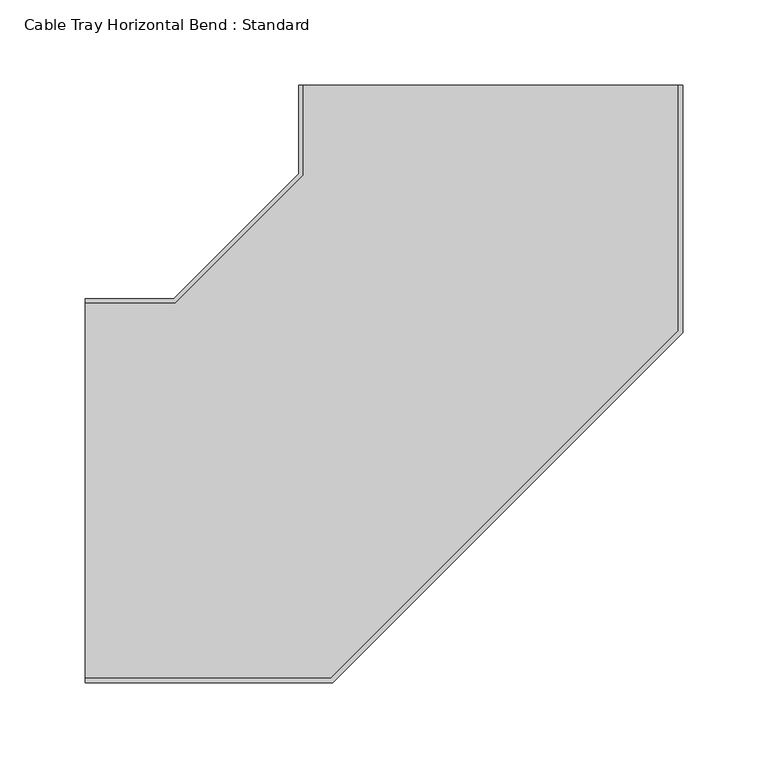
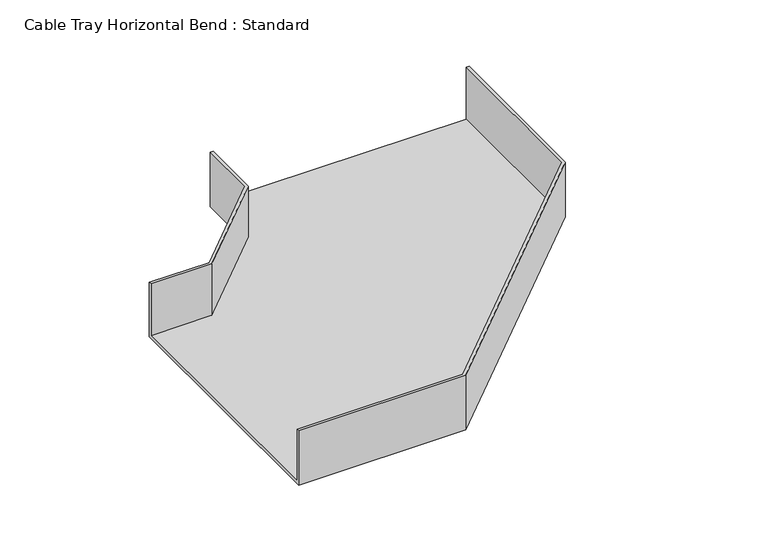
"""IFC4 building model written with IfcOpenShell, lengths in millimetres: cable carrier fitting geometry, Cable Tray Horizontal Bend : Standard."""

from ifc_helpers import new_model, si_unit, origin, place, context, project, spatial, faceted_brep, source, transform, mapped, element, save


def cable_tray_horizontal_bend_standard_fd552271(model_context):
    return source(origin(), model_context, "Body", "Brep", [
        faceted_brep([(-237.5, -112.5, -25.0), (-237.5, -112.5, 25.0), (-237.5, -109.96, 25.0), (-237.5, -109.96, -22.46), (-237.5, 109.96, -22.46), (-237.5, 109.96, 25.0), (-237.5, 112.5, 25.0), (-237.5, 112.5, -25.0), (112.5, 237.5, -25.0), (-112.5, 237.5, -25.0), (-112.5, 237.5, 25.0), (-109.96, 237.5, 25.0), (-109.96, 237.5, -22.46), (109.96, 237.5, -22.46), (109.96, 237.5, 25.0), (112.5, 237.5, 25.0), (-92.5252532, -112.5, -25.0), (-92.5252532, -112.5, 25.0), (112.5, 92.5252532, 25.0), (109.96, 93.5773556, 25.0), (-93.5773556, -109.96, 25.0), (-93.5773556, -109.96, -22.46), (109.96, 93.5773556, -22.46), (-109.96, 184.6712023, -22.46), (-184.6712023, 109.96, -22.46), (-184.6712023, 109.96, 25.0), (-109.96, 184.6712023, 25.0), (-112.5, 185.7233047, 25.0), (-185.7233047, 112.5, 25.0), (-185.7233047, 112.5, -25.0), (-112.5, 185.7233047, -25.0), (112.5, 92.5252532, -25.0)], [[[0, 1, 2, 3, 4, 5, 6, 7]], [[8, 9, 10, 11, 12, 13, 14, 15]], [[1, 0, 16, 17]], [[2, 1, 17, 18, 15, 14, 19, 20]], [[3, 2, 20, 21]], [[4, 3, 21, 22, 13, 12, 23, 24]], [[5, 4, 24, 25]], [[6, 5, 25, 26, 11, 10, 27, 28]], [[7, 6, 28, 29]], [[0, 7, 29, 30, 9, 8, 31, 16]], [[17, 16, 31, 18]], [[21, 20, 19, 22]], [[25, 24, 23, 26]], [[29, 28, 27, 30]], [[18, 31, 8, 15]], [[22, 19, 14, 13]], [[26, 23, 12, 11]], [[30, 27, 10, 9]]]),
    ])


if __name__ == "__main__":
    model = new_model("IFC4")
    model_context = context("Model", 3, world=origin())
    ifc_project = project(units=[si_unit("LENGTHUNIT", "METRE", prefix="MILLI")], contexts=[model_context])
    site = spatial("IfcSite", under=ifc_project)
    building = spatial("IfcBuilding", under=site)
    placement = place(None, origin())
    cable_tray_horizontal_bend_standard_shape = cable_tray_horizontal_bend_standard_fd552271(model_context)
    element("IfcCableCarrierFitting", 1, ObjectType="Cable Tray Horizontal Bend : Standard", at=placement, inside=building, context=model_context, shape_type="MappedRepresentation", body=[
        mapped(cable_tray_horizontal_bend_standard_shape, transform((0.0, 0.0, 0.0), x_axis=(1.0, 0.0, 0.0), y_axis=(0.0, 1.0, 0.0), z_axis=(0.0, 0.0, 1.0))),
    ])
    save(model, "model.ifc")
